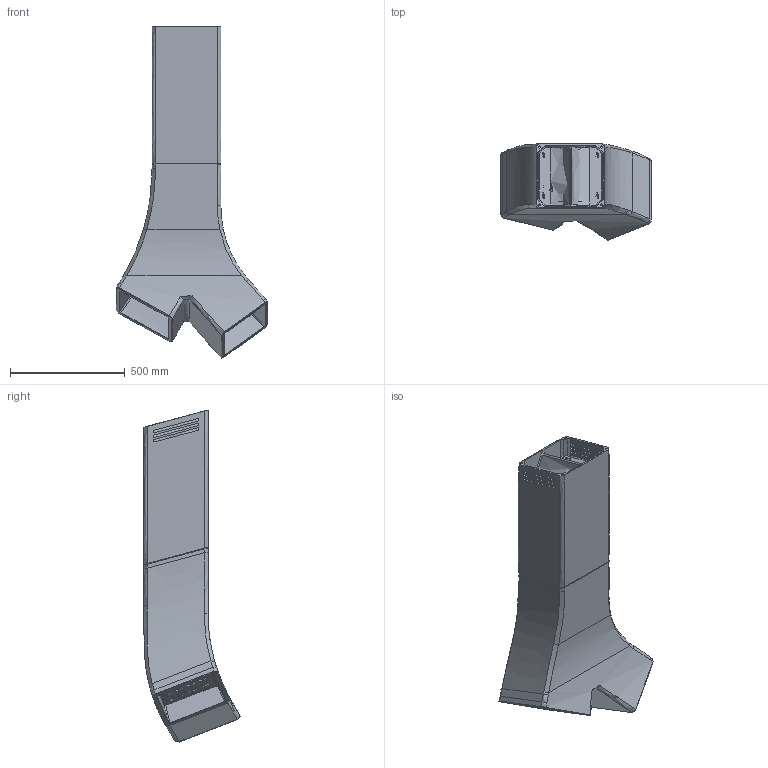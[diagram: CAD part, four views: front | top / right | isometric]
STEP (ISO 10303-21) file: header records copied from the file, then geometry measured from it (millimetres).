
FILE_DESCRIPTION(('STEP AP203'),'2;1');
FILE_NAME('YE_2014_11_prf0098375.stp','2014-11-15T22:29:09',(''),(''),'2012.1.115','THINKDESIGN','');
FILE_SCHEMA(('CONFIG_CONTROL_DESIGN'));
Length unit declared in the file: millimetre
Bounding box: 661.22 x 418.79 x 1445.62 mm (x, y, z)
Volume: 25845947.3 mm3; surface area: 4631423.9 mm2
Topology: 20 solids, 20 shells, 2438 faces, 6379 edges, 3954 vertices
Faces by surface type: bspline 1032, plane 776, cylinder 630
Entity records: 124238 total; most frequent: CARTESIAN_POINT 70602, ORIENTED_EDGE 12646, DIRECTION 8892, EDGE_CURVE 6323, VERTEX_POINT 3954, AXIS2_PLACEMENT_3D 3202, EDGE_LOOP 2678, VECTOR 2488
